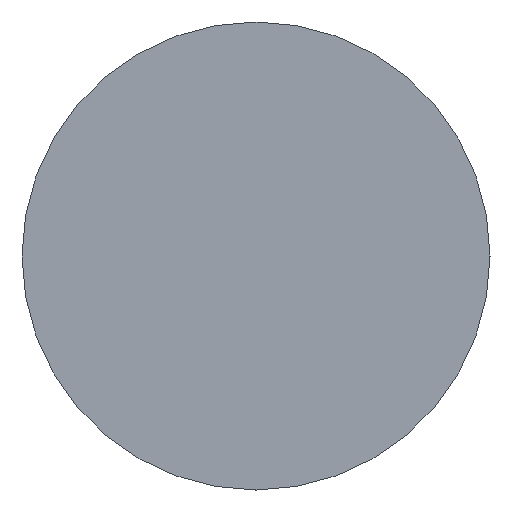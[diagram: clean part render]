
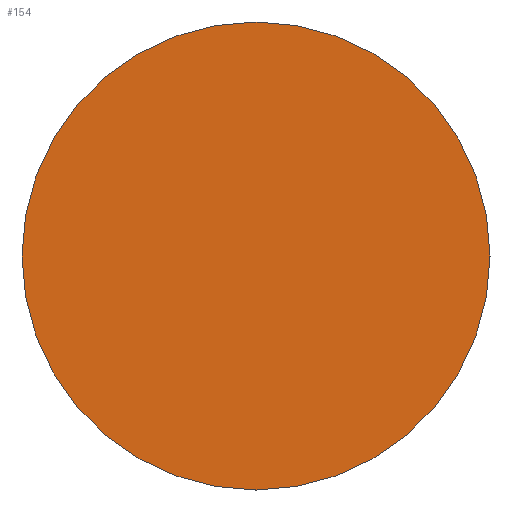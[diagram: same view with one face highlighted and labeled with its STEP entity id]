
A CAD part, left-side view. The second image highlights one B-rep face of the part: STEP entity #154.
In plain terms, the highlighted planar face has unit normal (-1, 0, 0).
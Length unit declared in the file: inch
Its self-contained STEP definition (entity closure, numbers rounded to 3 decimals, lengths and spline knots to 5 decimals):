
#17 = CARTESIAN_POINT ( 'NONE',  ( -3., 0., 0.21875 ) ) ;
#19 = DIRECTION ( 'NONE',  ( 0., 0., -1. ) ) ;
#21 = EDGE_LOOP ( 'NONE', ( #153, #139 ) ) ;
#40 = EDGE_CURVE ( 'NONE', #206, #203, #122, .T. ) ;
#41 = CARTESIAN_POINT ( 'NONE',  ( -3., 0., 0. ) ) ;
#46 = PLANE ( 'NONE',  #152 ) ;
#71 = DIRECTION ( 'NONE',  ( -1., 0., 0. ) ) ;
#82 = AXIS2_PLACEMENT_3D ( 'NONE', #336, #71, #251 ) ;
#92 = AXIS2_PLACEMENT_3D ( 'NONE', #41, #162, #133 ) ;
#122 = CIRCLE ( 'NONE', #92, 0.21875 ) ;
#133 = DIRECTION ( 'NONE',  ( 0., 0., 1. ) ) ;
#139 = ORIENTED_EDGE ( 'NONE', *, *, #40, .T. ) ;
#152 = AXIS2_PLACEMENT_3D ( 'NONE', #276, #279, #19 ) ;
#153 = ORIENTED_EDGE ( 'NONE', *, *, #180, .T. ) ;
#154 = ADVANCED_FACE ( 'NONE', ( #226 ), #46, .F. ) ;
#162 = DIRECTION ( 'NONE',  ( -1., 0., 0. ) ) ;
#180 = EDGE_CURVE ( 'NONE', #203, #206, #188, .T. ) ;
#188 = CIRCLE ( 'NONE', #82, 0.21875 ) ;
#203 = VERTEX_POINT ( 'NONE', #17 ) ;
#206 = VERTEX_POINT ( 'NONE', #342 ) ;
#226 = FACE_OUTER_BOUND ( 'NONE', #21, .T. ) ;
#251 = DIRECTION ( 'NONE',  ( 0., 0., 1. ) ) ;
#276 = CARTESIAN_POINT ( 'NONE',  ( -3., 0.21875, 0. ) ) ;
#279 = DIRECTION ( 'NONE',  ( 1., 0., 0. ) ) ;
#336 = CARTESIAN_POINT ( 'NONE',  ( -3., 0., 0. ) ) ;
#342 = CARTESIAN_POINT ( 'NONE',  ( -3., 0., -0.21875 ) ) ;
